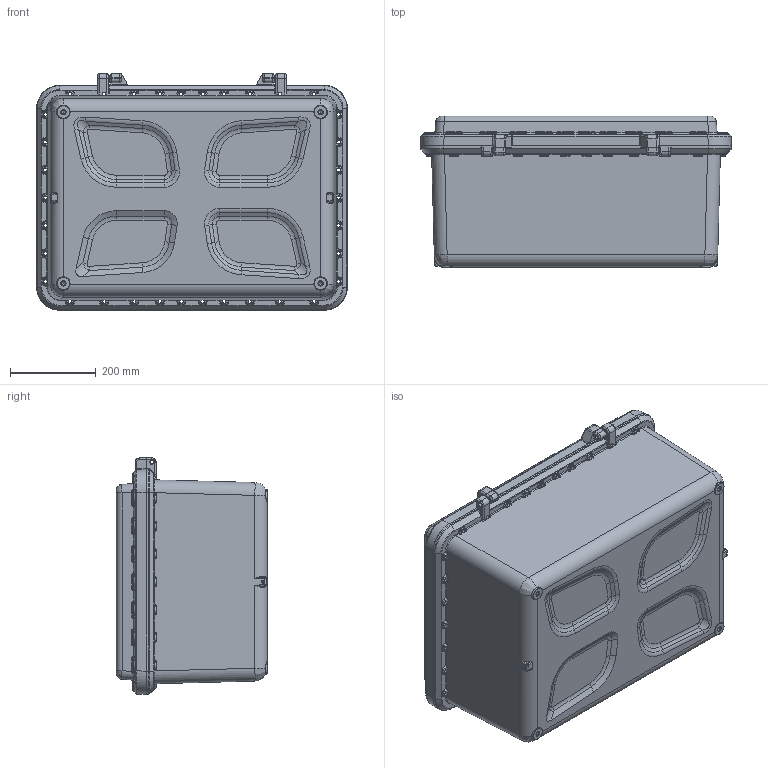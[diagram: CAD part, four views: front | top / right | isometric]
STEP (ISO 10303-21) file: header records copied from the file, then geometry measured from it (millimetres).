
FILE_DESCRIPTION(('STEP AP203'), '1');
FILE_NAME('Ñáîðêà_Êîðïóñ Â08-01', '', ('UNSPECIFIED'), ('UNSPECIFIED'), 'C3D Converter', 'C3D Toolkit', '');
FILE_SCHEMA(('CONFIG_CONTROL_DESIGN'));
Length unit declared in the file: millimetre
Products named in the file (3): В08-01; В08-02
Assembly tree (2 placements, depth 2):
  (unnamed)
    В08-01
    В08-02
Bounding box: 725 x 354 x 552.08 mm (x, y, z)
Volume: 31791677.3 mm3; surface area: 2847000.4 mm2
Topology: 2 solids, 2 shells, 2958 faces, 7417 edges, 4492 vertices
Faces by surface type: cylinder 1188, bspline 542, cone 508, plane 488, torus 232
Full cylindrical faces by diameter (mm): 4.917 x8, 8 x2, 8.376 x38, 9 x2, 11 x68, 18 x34
Entity records: 209161 total; most frequent: CARTESIAN_POINT 117856, ORIENTED_EDGE 14342, DIRECTION 13658, EDGE_CURVE 7171, AXIS2_PLACEMENT_3D 5568, VERTEX_POINT 4474, EDGE_LOOP 3359, CIRCLE 3149
